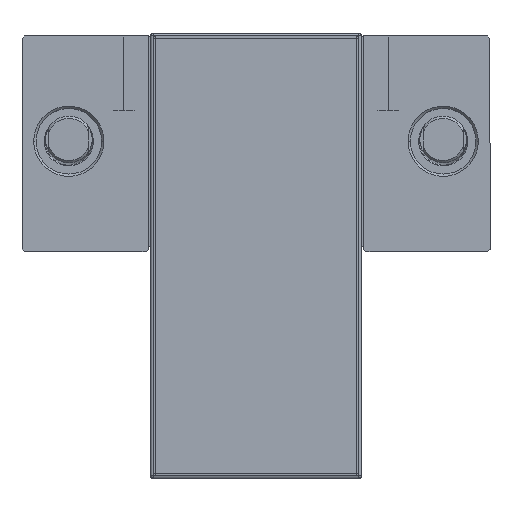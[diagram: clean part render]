
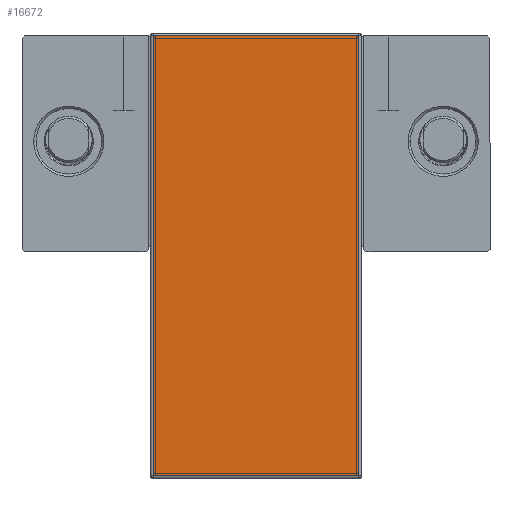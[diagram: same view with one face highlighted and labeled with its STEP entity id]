
A CAD part, top view. The second image highlights one B-rep face of the part: STEP entity #16672.
In plain terms, the highlighted planar face has unit normal (0, 0, 1).
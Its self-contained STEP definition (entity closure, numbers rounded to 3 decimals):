
#2263 = EDGE_CURVE ( 'NONE', #29787, #22166, #24333, .T. ) ;
#2937 = ORIENTED_EDGE ( 'NONE', *, *, #2263, .T. ) ;
#4097 = CARTESIAN_POINT ( 'NONE',  ( -44., -144., 621. ) ) ;
#4929 = EDGE_CURVE ( 'NONE', #15528, #29787, #29582, .T. ) ;
#5961 = DIRECTION ( 'NONE',  ( 1., 0., 0. ) ) ;
#7583 = VECTOR ( 'NONE', #16814, 1000. ) ;
#8738 = VERTEX_POINT ( 'NONE', #4097 ) ;
#10206 = VECTOR ( 'NONE', #37006, 1000. ) ;
#11069 = PLANE ( 'NONE',  #25928 ) ;
#11860 = VECTOR ( 'NONE', #5961, 1000. ) ;
#12262 = ORIENTED_EDGE ( 'NONE', *, *, #4929, .T. ) ;
#13103 = ORIENTED_EDGE ( 'NONE', *, *, #13568, .T. ) ;
#13568 = EDGE_CURVE ( 'NONE', #8738, #15528, #20704, .T. ) ;
#15528 = VERTEX_POINT ( 'NONE', #37956 ) ;
#16672 = ADVANCED_FACE ( 'NONE', ( #17261 ), #11069, .T. ) ;
#16814 = DIRECTION ( 'NONE',  ( -1., 0., 0. ) ) ;
#17045 = DIRECTION ( 'NONE',  ( 0., 0., 1. ) ) ;
#17261 = FACE_OUTER_BOUND ( 'NONE', #18346, .T. ) ;
#18119 = LINE ( 'NONE', #34001, #10206 ) ;
#18346 = EDGE_LOOP ( 'NONE', ( #24020, #13103, #12262, #2937 ) ) ;
#20704 = LINE ( 'NONE', #23864, #11860 ) ;
#21212 = DIRECTION ( 'NONE',  ( 0., 1., 0. ) ) ;
#22166 = VERTEX_POINT ( 'NONE', #29186 ) ;
#23864 = CARTESIAN_POINT ( 'NONE',  ( 44., -144., 621. ) ) ;
#24020 = ORIENTED_EDGE ( 'NONE', *, *, #35063, .T. ) ;
#24333 = LINE ( 'NONE', #34657, #7583 ) ;
#25928 = AXIS2_PLACEMENT_3D ( 'NONE', #34861, #17045, #37854 ) ;
#28356 = CARTESIAN_POINT ( 'NONE',  ( 44., 44., 621. ) ) ;
#29186 = CARTESIAN_POINT ( 'NONE',  ( -44., 44., 621. ) ) ;
#29582 = LINE ( 'NONE', #36160, #37482 ) ;
#29787 = VERTEX_POINT ( 'NONE', #28356 ) ;
#34001 = CARTESIAN_POINT ( 'NONE',  ( -44., -144., 621. ) ) ;
#34657 = CARTESIAN_POINT ( 'NONE',  ( -44., 44., 621. ) ) ;
#34861 = CARTESIAN_POINT ( 'NONE',  ( -44., -144., 621. ) ) ;
#35063 = EDGE_CURVE ( 'NONE', #22166, #8738, #18119, .T. ) ;
#36160 = CARTESIAN_POINT ( 'NONE',  ( 44., 44., 621. ) ) ;
#37006 = DIRECTION ( 'NONE',  ( 0., -1., 0. ) ) ;
#37482 = VECTOR ( 'NONE', #21212, 1000. ) ;
#37854 = DIRECTION ( 'NONE',  ( 1., 0., 0. ) ) ;
#37956 = CARTESIAN_POINT ( 'NONE',  ( 44., -144., 621. ) ) ;
